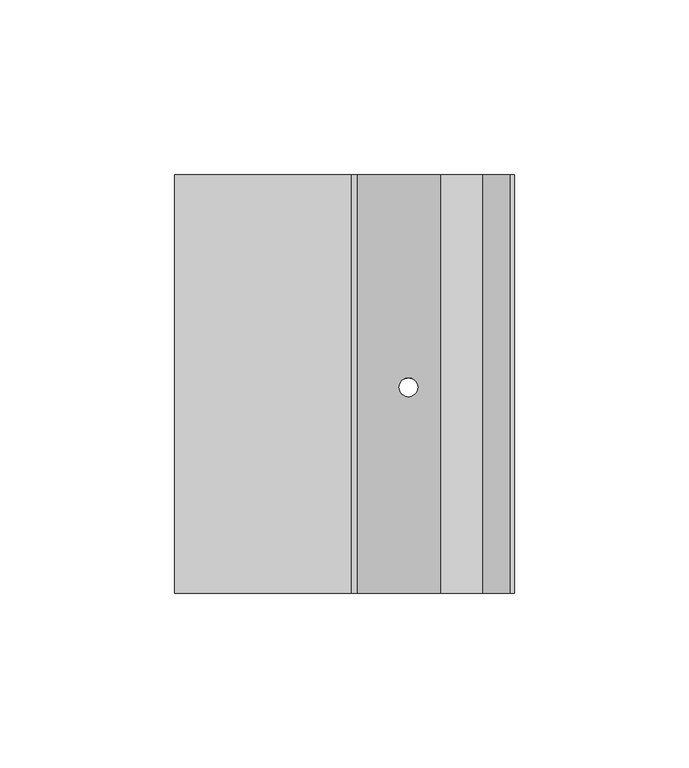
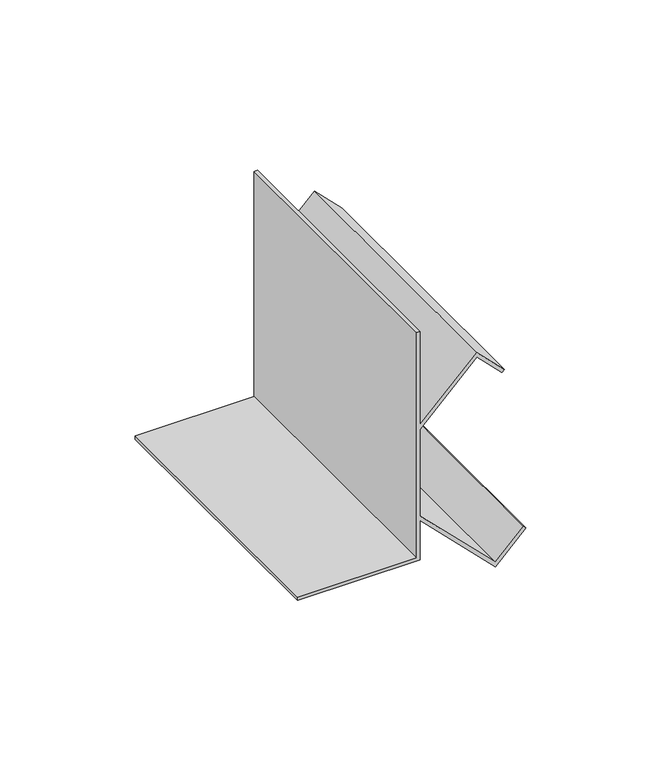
"""IFC4 building model written with IfcOpenShell, lengths in millimetres: proxy geometry, Mechanical Fittings & Accessories12 : Mechanical Fittings & Accessories."""

from ifc_helpers import new_model, si_unit, frame, origin, place, context, project, spatial, polyline, ellipse_curve, source, transform, mapped, element, save
from ifc_brep_helpers import plane_surface, revolved_surface, advanced_brep


def generic_models_f47540d4(model_context):
    return source(origin(), model_context, "Body", "AdvancedBrep", [
        advanced_brep(
        [(-12208.7639562, 3322.4963986, 4114.8), (-12259.5639562, 3322.4963986, 4114.8), (-12259.5639562, 3322.4963986, 4113.3117188), (-12207.275675, 3322.4963986, 4113.3117188), (-12207.275675, 3322.4963986, 4131.1383509), (-12175.165914, 3322.4963986, 4099.0285899), (-12162.1869427, 3322.4963986, 4112.0075612), (-12163.2393164, 3322.4963986, 4113.059935), (-12175.165914, 3322.4963986, 4101.1333374), (-12207.275675, 3322.4963986, 4133.2430984), (-12207.275675, 3322.4963986, 4172.2761118), (-12183.103414, 3322.4963986, 4196.4483729), (-12172.3674414, 3322.4963986, 4185.7124003), (-12171.3150677, 3322.4963986, 4186.7647741), (-12183.103414, 3322.4963986, 4198.5531204), (-12207.275675, 3322.4963986, 4174.3808594), (-12207.275675, 3322.4963986, 4216.4), (-12208.7639562, 3322.4963986, 4216.4), (-12208.7639562, 3442.4645457, 4114.8), (-12208.7639562, 3442.4645457, 4216.4), (-12207.275675, 3442.4645457, 4216.4), (-12207.275675, 3442.4645457, 4174.3808594), (-12183.103414, 3442.4645457, 4198.5531204), (-12171.3150677, 3442.4645457, 4186.7647741), (-12172.3674414, 3442.4645457, 4185.7124003), (-12183.103414, 3442.4645457, 4196.4483729), (-12207.275675, 3442.4645457, 4172.2761118), (-12207.275675, 3442.4645457, 4133.2430984), (-12175.165914, 3442.4645457, 4101.1333374), (-12163.2393164, 3442.4645457, 4113.059935), (-12162.1869427, 3442.4645457, 4112.0075612), (-12175.165914, 3442.4645457, 4099.0285899), (-12207.275675, 3442.4645457, 4131.1383509), (-12207.275675, 3442.4645457, 4113.3117188), (-12259.5639562, 3442.4645457, 4113.3117188), (-12259.5639562, 3442.4645457, 4114.8), (-12195.1617646, 3381.5191481, 4119.0244406), (-12189.8223978, 3381.5191481, 4113.6850737), (-12189.8223978, 3381.5191481, 4115.7898213), (-12195.1617646, 3381.5191481, 4121.1291881), (-12195.1617646, 3381.5191481, 4184.3900222), (-12189.8223978, 3381.5191481, 4189.729389), (-12189.8223978, 3381.5191481, 4191.8341365), (-12195.1617646, 3381.5191481, 4186.4947697)],
        [
            (0, 1),
            (1, 2),
            (2, 3),
            (3, 4),
            (4, 5),
            (5, 6),
            (6, 7),
            (7, 8),
            (8, 9),
            (9, 10),
            (10, 11),
            (11, 12),
            (12, 13),
            (13, 14),
            (14, 15),
            (15, 16),
            (16, 17),
            (17, 0),
            (18, 19),
            (19, 20),
            (20, 21),
            (21, 22),
            (22, 23),
            (23, 24),
            (24, 25),
            (25, 26),
            (26, 27),
            (27, 28),
            (28, 29),
            (29, 30),
            (30, 31),
            (31, 32),
            (32, 33),
            (33, 34),
            (34, 35),
            (35, 18),
            (0, 18),
            (35, 1),
            (34, 2),
            (33, 3),
            (32, 4),
            (31, 5),
            (36, 37, ellipse_curve(frame((-12192.4920812, 3381.5191481, 4116.3547571), z_axis=(0.7071067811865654, 0.0, 0.7071067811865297), x_axis=(-0.7071067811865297, 0.0, 0.7071067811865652)), 3.7755025, 2.6696834)),
            (37, 36, ellipse_curve(frame((-12192.4920812, 3381.5191481, 4116.3547571), z_axis=(0.7071067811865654, 0.0, 0.7071067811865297), x_axis=(-0.7071067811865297, 0.0, 0.7071067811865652)), 3.7755025, 2.6696834)),
            (30, 6),
            (29, 7),
            (28, 8),
            (27, 9),
            (38, 39, ellipse_curve(frame((-12192.4920812, 3381.5191481, 4118.4595047), z_axis=(-0.7071067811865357, 0.0, -0.7071067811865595), x_axis=(-0.7071067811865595, 0.0, 0.7071067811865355)), 3.7755025, 2.6696834)),
            (39, 38, ellipse_curve(frame((-12192.4920812, 3381.5191481, 4118.4595047), z_axis=(-0.7071067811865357, 0.0, -0.7071067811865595), x_axis=(-0.7071067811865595, 0.0, 0.7071067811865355)), 3.7755025, 2.6696834)),
            (26, 10),
            (25, 11),
            (40, 41, ellipse_curve(frame((-12192.4920812, 3381.5191481, 4187.0597056), z_axis=(-0.7071067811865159, 0.0, 0.7071067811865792), x_axis=(0.7071067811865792, 0.0, 0.7071067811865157)), 3.7755025, 2.6696834)),
            (41, 40, ellipse_curve(frame((-12192.4920812, 3381.5191481, 4187.0597056), z_axis=(-0.7071067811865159, 0.0, 0.7071067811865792), x_axis=(0.7071067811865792, 0.0, 0.7071067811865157)), 3.7755025, 2.6696834)),
            (24, 12),
            (23, 13),
            (22, 14),
            (21, 15),
            (42, 43, ellipse_curve(frame((-12192.4920812, 3381.5191481, 4189.1644531), z_axis=(0.7071067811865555, 0.0, -0.7071067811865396), x_axis=(0.7071067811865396, 0.0, 0.7071067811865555)), 3.7755025, 2.6696834)),
            (43, 42, ellipse_curve(frame((-12192.4920812, 3381.5191481, 4189.1644531), z_axis=(0.7071067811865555, 0.0, -0.7071067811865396), x_axis=(0.7071067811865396, 0.0, 0.7071067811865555)), 3.7755025, 2.6696834)),
            (20, 16),
            (19, 17),
            (36, 39),
            (38, 37),
            (40, 43),
            (42, 41),
        ],
        [
            plane_surface(frame((-12259.5639562, 3322.4963986, 4114.8), z_axis=(0.0, -1.0, 0.0), x_axis=(-1.0, 0.0, 0.0))),
            plane_surface(frame((-12259.5639562, 3442.4645457, 4114.8), z_axis=(0.0, 1.0, 0.0), x_axis=(1.0, 0.0, 0.0))),
            plane_surface(frame((-12208.7639562, 3322.4963986, 4114.8), z_axis=(0.0, 0.0, 1.0), x_axis=(0.0, 1.0, 0.0))),
            plane_surface(frame((-12259.5639562, 3322.4963986, 4114.8), z_axis=(-1.0, 0.0, 0.0), x_axis=(0.0, 1.0, 0.0))),
            plane_surface(frame((-12259.5639562, 3322.4963986, 4113.3117188), z_axis=(0.0, 0.0, -1.0), x_axis=(0.0, 1.0, 0.0))),
            plane_surface(frame((-12207.275675, 3322.4963986, 4113.3117188), z_axis=(1.0, 0.0, 0.0), x_axis=(0.0, 1.0, 0.0))),
            plane_surface(frame((-12207.275675, 3322.4963986, 4131.1383509), z_axis=(-0.7071067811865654, 0.0, -0.7071067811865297), x_axis=(0.0, 1.0, 0.0))),
            plane_surface(frame((-12175.165914, 3322.4963986, 4099.0285899), z_axis=(0.7071067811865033, 0.0, -0.7071067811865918), x_axis=(0.0, 1.0, 0.0))),
            plane_surface(frame((-12162.1869427, 3322.4963986, 4112.0075612), z_axis=(0.7071067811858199, 0.0, 0.7071067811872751), x_axis=(0.0, 1.0, 0.0))),
            plane_surface(frame((-12163.2393164, 3322.4963986, 4113.059935), z_axis=(-0.7071067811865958, 0.0, 0.7071067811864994), x_axis=(0.0, 1.0, 0.0))),
            plane_surface(frame((-12175.165914, 3322.4963986, 4101.1333374), z_axis=(0.7071067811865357, 0.0, 0.7071067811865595), x_axis=(0.0, 1.0, 0.0))),
            plane_surface(frame((-12207.275675, 3322.4963986, 4133.2430984), z_axis=(1.0, 0.0, 0.0), x_axis=(0.0, 1.0, 0.0))),
            plane_surface(frame((-12207.275675, 3322.4963986, 4172.2761118), z_axis=(0.7071067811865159, 0.0, -0.7071067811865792), x_axis=(0.0, 1.0, 0.0))),
            plane_surface(frame((-12183.103414, 3322.4963986, 4196.4483729), z_axis=(-0.7071067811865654, 0.0, -0.7071067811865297), x_axis=(0.0, 1.0, 0.0))),
            plane_surface(frame((-12172.3674414, 3322.4963986, 4185.7124003), z_axis=(0.7071067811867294, 0.0, -0.7071067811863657), x_axis=(0.0, 1.0, 0.0))),
            plane_surface(frame((-12171.3150677, 3322.4963986, 4186.7647741), z_axis=(0.7071067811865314, 0.0, 0.7071067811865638), x_axis=(0.0, 1.0, 0.0))),
            plane_surface(frame((-12183.103414, 3322.4963986, 4198.5531204), z_axis=(-0.7071067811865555, 0.0, 0.7071067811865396), x_axis=(0.0, 1.0, 0.0))),
            plane_surface(frame((-12207.275675, 3322.4963986, 4174.3808594), z_axis=(1.0, 0.0, 0.0), x_axis=(0.0, 1.0, 0.0))),
            plane_surface(frame((-12207.275675, 3322.4963986, 4216.4), z_axis=(0.0, 0.0, 1.0), x_axis=(0.0, 1.0, 0.0))),
            plane_surface(frame((-12208.7639562, 3322.4963986, 4216.4), z_axis=(-1.0, 0.0, 0.0), x_axis=(0.0, 1.0, 0.0))),
            revolved_surface(polyline([(-12189.8223978, 3381.5191481, 4121.129188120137), (-12189.8223978, 3381.5191481, 4113.685073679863)]), (-12192.4920812, 3381.5191481, 4097.2034211), (0.0, 0.0, 1.0)),
            revolved_surface(polyline([(-12189.8223978, 3381.5191481, 4191.834136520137), (-12189.8223978, 3381.5191481, 4184.390022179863)]), (-12192.4920812, 3381.5191481, 4097.2034211), (0.0, 0.0, 1.0)),
        ],
        [
            (0, [[1, 2, 3, 4, 5, 6, 7, 8, 9, 10, 11, 12, 13, 14, 15, 16, 17, 18]]),
            (1, [[19, 20, 21, 22, 23, 24, 25, 26, 27, 28, 29, 30, 31, 32, 33, 34, 35, 36]]),
            (2, [[-1, 37, -36, 38]]),
            (3, [[-2, -38, -35, 39]]),
            (4, [[-3, -39, -34, 40]]),
            (5, [[-4, -40, -33, 41]]),
            (6, [[-5, -41, -32, 42], [43, 44]]),
            (7, [[-6, -42, -31, 45]]),
            (8, [[-7, -45, -30, 46]]),
            (9, [[-8, -46, -29, 47]]),
            (10, [[-9, -47, -28, 48], [49, 50]]),
            (11, [[-10, -48, -27, 51]]),
            (12, [[-11, -51, -26, 52], [53, 54]]),
            (13, [[-12, -52, -25, 55]]),
            (14, [[-13, -55, -24, 56]]),
            (15, [[-14, -56, -23, 57]]),
            (16, [[-15, -57, -22, 58], [59, 60]]),
            (17, [[-16, -58, -21, 61]]),
            (18, [[-17, -61, -20, 62]]),
            (19, [[-18, -62, -19, -37]]),
            (20, [[63, -49, 64, -43]]),
            (21, [[65, -59, 66, -53]]),
            (20, [[-63, -44, -64, -50]]),
            (21, [[-65, -54, -66, -60]]),
        ],
    ),
    ])


if __name__ == "__main__":
    model = new_model("IFC4")
    model_context = context("Model", 3, world=origin())
    ifc_project = project(units=[si_unit("LENGTHUNIT", "METRE", prefix="MILLI")], contexts=[model_context])
    site = spatial("IfcSite", under=ifc_project)
    building = spatial("IfcBuilding", under=site)
    placement = place(None, origin())
    generic_models_shape = generic_models_f47540d4(model_context)
    element("IfcBuildingElementProxy", 1, Name="Mechanical Fittings & Accessories12 : Mechanical Fittings & Accessories", ObjectType="Mechanical Fittings & Accessories12 : Mechanical Fittings & Accessories", at=placement, inside=building, context=model_context, shape_type="MappedRepresentation", body=[
        mapped(generic_models_shape, transform((0.0, 0.0, 0.0), x_axis=(1.0, 0.0, 0.0), y_axis=(0.0, 1.0, 0.0), z_axis=(0.0, 0.0, 1.0))),
    ])
    save(model, "model.ifc")
